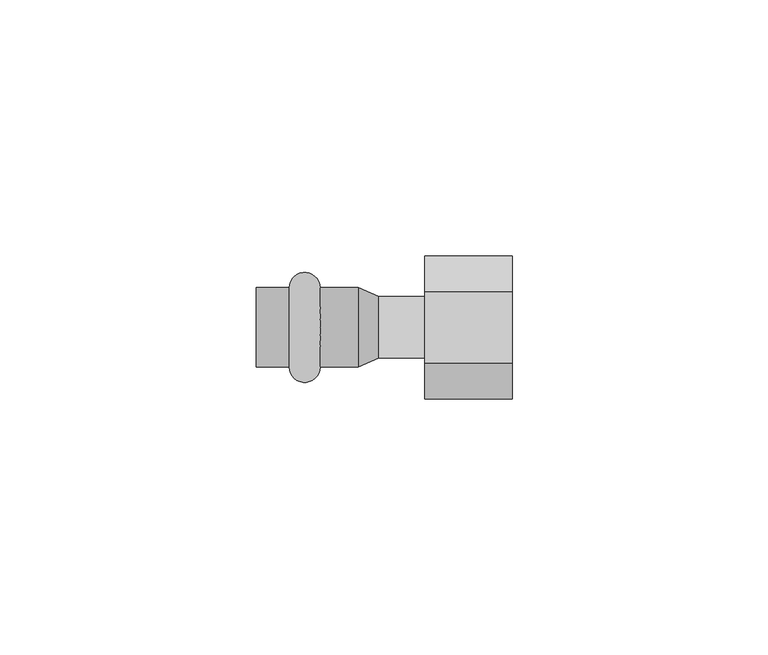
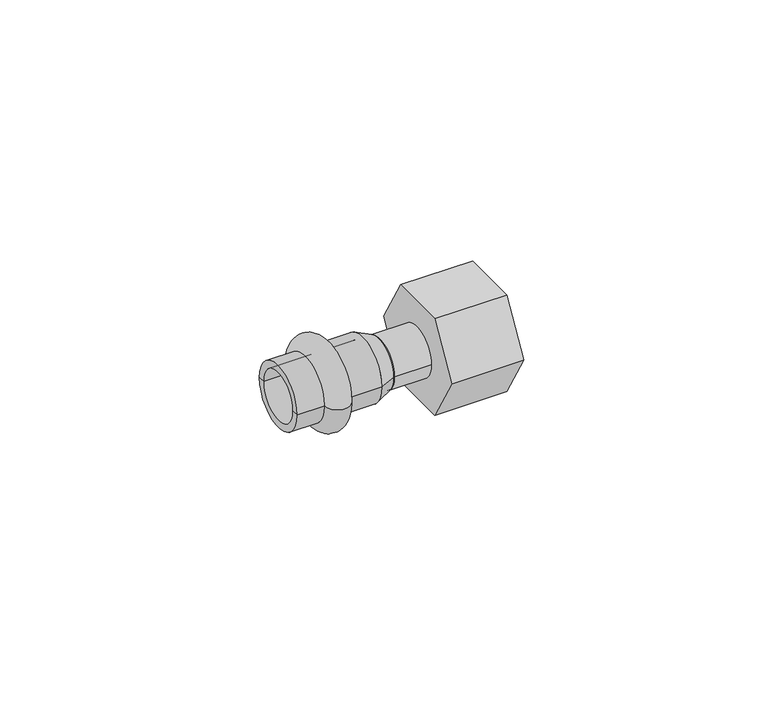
"""IFC4 building model written with IfcOpenShell, lengths in millimetres: pipe fitting geometry, VALTEC_VTi.902.I_Соединитель прямой с переходом на внутреннюю резьбу_Нержавеющая сталь : VTi.902.I."""

from ifc_helpers import new_model, si_unit, point, frame, origin, origin_2d, place, context, project, spatial, polyline, circle_curve, ellipse_curve, trimmed, segment, composite_curve, outline, extrude, source, transform, mapped, element, save
from ifc_brep_helpers import plane_surface, cylinder_surface, revolved_surface, advanced_brep


def pipe_fitting_92b2affd(model_context):
    return source(origin(), model_context, "Body", "SolidModel", [
        advanced_brep(
        [(-35.0, -7.75, 0.0), (-35.0, 7.75, 0.0), (-29.0, 7.75, 0.0), (-29.0, -7.75, 0.0), (-41.5, -7.75, 0.0), (-41.5, 7.75, 0.0), (-41.5, -6.0, 0.0), (-41.5, 6.0, 0.0), (-21.5, -6.0, 0.0), (-21.5, 6.0, 0.0), (-21.5, -7.75, 0.0), (-21.5, 7.75, 0.0)],
        [
            (0, 1, circle_curve(frame((-35.0, 0.0, 0.0), z_axis=(1.0, 0.0, 0.0), x_axis=(0.0, 1.0, 0.0)), 7.75)),
            (1, 2, circle_curve(frame((-32.0, 7.75, 0.0), z_axis=(0.0, 0.0, -1.0), x_axis=(1.0, 0.0, 0.0)), 3.0)),
            (2, 3, circle_curve(frame((-29.0, 0.0, 0.0), z_axis=(-1.0, 0.0, 0.0), x_axis=(0.0, 1.0, 0.0)), 7.75)),
            (3, 0, circle_curve(frame((-32.0, -7.75, 0.0), z_axis=(0.0, 0.0, -1.0), x_axis=(1.0, 0.0, 0.0)), 3.0)),
            (1, 0, circle_curve(frame((-35.0, 0.0, 0.0), z_axis=(1.0, 0.0, 0.0), x_axis=(0.0, 1.0, 0.0)), 7.75)),
            (3, 2, circle_curve(frame((-29.0, 0.0, 0.0), z_axis=(-1.0, 0.0, 0.0), x_axis=(0.0, 1.0, 0.0)), 7.75)),
            (4, 5, circle_curve(frame((-41.5, 0.0, 0.0), z_axis=(1.0, 0.0, 0.0), x_axis=(0.0, 1.0, 0.0)), 7.75)),
            (5, 1),
            (0, 4),
            (5, 4, circle_curve(frame((-41.5, 0.0, 0.0), z_axis=(1.0, 0.0, 0.0), x_axis=(0.0, 1.0, 0.0)), 7.75)),
            (6, 7, circle_curve(frame((-41.5, 0.0, 0.0), z_axis=(1.0, 0.0, 0.0), x_axis=(0.0, 1.0, 0.0)), 6.0)),
            (7, 5),
            (4, 6),
            (7, 6, circle_curve(frame((-41.5, 0.0, 0.0), z_axis=(1.0, 0.0, 0.0), x_axis=(0.0, 1.0, 0.0)), 6.0)),
            (8, 9, circle_curve(frame((-21.5, 0.0, 0.0), z_axis=(1.0, 0.0, 0.0), x_axis=(0.0, 1.0, 0.0)), 6.0)),
            (9, 7),
            (6, 8),
            (9, 8, circle_curve(frame((-21.5, 0.0, 0.0), z_axis=(1.0, 0.0, 0.0), x_axis=(0.0, 1.0, 0.0)), 6.0)),
            (10, 11, circle_curve(frame((-21.5, 0.0, 0.0), z_axis=(1.0, 0.0, 0.0), x_axis=(0.0, 1.0, 0.0)), 7.75)),
            (11, 9),
            (8, 10),
            (11, 10, circle_curve(frame((-21.5, 0.0, 0.0), z_axis=(1.0, 0.0, 0.0), x_axis=(0.0, 1.0, 0.0)), 7.75)),
            (2, 11),
            (10, 3),
        ],
        [
            revolved_surface(trimmed(ellipse_curve(frame((-32.0, 7.75, 0.0), z_axis=(0.0, 0.0, 1.0), x_axis=(1.0, 0.0, 0.0)), 3.0, 3.0), [point((-29.0, 7.75, 0.0))], [point((-35.0, 7.75, 0.0))], True, "CARTESIAN"), (-45.0364426, 0.0, 0.0), (-1.0, 0.0, 0.0)),
            cylinder_surface(frame((-45.0364426, 0.0, 0.0), z_axis=(-1.0, 0.0, 0.0), x_axis=(0.0, 1.0, 0.0)), 7.75),
            plane_surface(frame((-41.5, 0.0, 0.0), z_axis=(-1.0, 0.0, 0.0), x_axis=(0.0, 1.0, 0.0))),
            revolved_surface(polyline([(-41.5, 6.0, 0.0), (-21.5, 6.0, 0.0)]), (-45.0364426, 0.0, 0.0), (-1.0, 0.0, 0.0)),
            plane_surface(frame((-21.5, 0.0, 0.0), z_axis=(1.0, 0.0, 0.0), x_axis=(0.0, 1.0, 0.0))),
        ],
        [
            (0, [[1, 2, 3, 4]]),
            (0, [[5, -4, 6, -2]]),
            (1, [[7, 8, -1, 9]]),
            (1, [[10, -9, -5, -8]]),
            (2, [[11, 12, -7, 13]]),
            (2, [[14, -13, -10, -12]]),
            (3, [[15, 16, -11, 17]]),
            (3, [[18, -17, -14, -16]]),
            (4, [[19, 20, -15, 21]]),
            (4, [[22, -21, -18, -20]]),
            (1, [[-3, 23, -19, 24]]),
            (1, [[-6, -24, -22, -23]]),
        ],
    ),
        extrude(outline(polyline([(-13.989197, 0.0), (-6.9945985, 12.115), (6.9945985, 12.115), (13.989197, 0.0), (6.9945985, -12.115), (-6.9945985, -12.115), (-13.989197, 0.0)])), frame((-8.5, 0.0, 0.0), z_axis=(1.0, 0.0, 0.0), x_axis=(0.0, 1.0, 0.0)), (0.0, 0.0, 1.0), 17.0),
        extrude(outline(composite_curve([segment(trimmed(circle_curve(origin_2d(), 6.0), [point((-6.0, 0.0))], [point((6.0, 0.0))], False, "CARTESIAN"), True, "CONTINUOUS"), segment(trimmed(circle_curve(origin_2d(), 6.0), [point((6.0, 0.0))], [point((-6.0, 0.0))], False, "CARTESIAN"), True, "CONTINUOUS")], self_intersect=False)), frame((-17.5, 0.0, 0.0), z_axis=(1.0, 0.0, 0.0), x_axis=(0.0, 1.0, 0.0)), (0.0, 0.0, 1.0), 9.0),
        advanced_brep(
        [(-17.5, -6.0, 0.0), (-17.5, 6.0, 0.0), (-21.5, -7.75, 0.0), (-21.5, 7.75, 0.0)],
        [
            (0, 1, circle_curve(frame((-17.5, 0.0, 0.0), z_axis=(1.0, 0.0, 0.0), x_axis=(0.0, -1.0, 0.0)), 6.0)),
            (1, 0, circle_curve(frame((-17.5, 0.0, 0.0), z_axis=(1.0, 0.0, 0.0), x_axis=(0.0, 1.0, 0.0)), 6.0)),
            (2, 3, circle_curve(frame((-21.5, 0.0, 0.0), z_axis=(-1.0, 0.0, 0.0), x_axis=(0.0, 1.0, 0.0)), 7.75)),
            (3, 2, circle_curve(frame((-21.5, 0.0, 0.0), z_axis=(-1.0, 0.0, 0.0), x_axis=(0.0, -1.0, 0.0)), 7.75)),
            (3, 1),
            (0, 2),
        ],
        [
            plane_surface(frame((-17.5, 0.0, 0.0), z_axis=(1.0, 0.0, 0.0), x_axis=(0.0, 0.0, -1.0))),
            plane_surface(frame((-21.5, 0.0, 0.0), z_axis=(-1.0, 0.0, 0.0), x_axis=(0.0, 0.0, -1.0))),
            revolved_surface(polyline([(-17.5, -5.999999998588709, 0.0), (-21.5, -7.75, 0.0)]), (-3.7857143, 0.0, 0.0), (-1.0, 0.0, 0.0)),
            revolved_surface(polyline([(-17.5, 5.999999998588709, 0.0), (-21.5, 7.75, 0.0)]), (-3.7857143, 0.0, 0.0), (-1.0, 0.0, 0.0)),
        ],
        [
            (0, [[1, 2]]),
            (1, [[3, 4]]),
            (2, [[-4, 5, -1, 6]]),
            (3, [[-3, -6, -2, -5]]),
        ],
    ),
    ])


if __name__ == "__main__":
    model = new_model("IFC4")
    model_context = context("Model", 3, world=origin())
    ifc_project = project(units=[si_unit("LENGTHUNIT", "METRE", prefix="MILLI")], contexts=[model_context])
    site = spatial("IfcSite", under=ifc_project)
    building = spatial("IfcBuilding", under=site)
    placement = place(None, origin())
    pipe_fitting_shape = pipe_fitting_92b2affd(model_context)
    element("IfcPipeFitting", 1, ObjectType="VALTEC_VTi.902.I_Соединитель прямой с переходом на внутреннюю резьбу_Нержавеющая сталь : VTi.902.I", at=placement, inside=building, context=model_context, shape_type="MappedRepresentation", body=[
        mapped(pipe_fitting_shape, transform((0.0, 0.0, 0.0), x_axis=(1.0, 0.0, 0.0), y_axis=(0.0, 1.0, 0.0), z_axis=(0.0, 0.0, 1.0))),
    ])
    save(model, "model.ifc")
